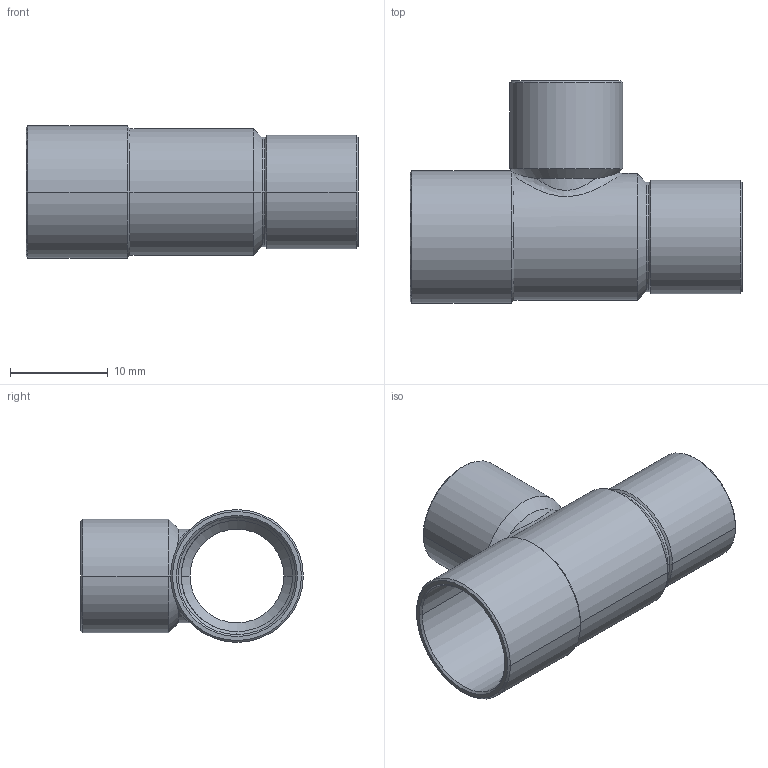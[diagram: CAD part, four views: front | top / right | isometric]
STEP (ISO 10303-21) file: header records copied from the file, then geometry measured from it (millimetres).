
FILE_DESCRIPTION((''),'2;1');
FILE_NAME('P:\Bouwmaten\z-maattekeningen 3D\5000\5130\5130121010.stp','2005-10-26T11:52:22',('Kris'),(''),'Autodesk Inventor 8','Autodesk Inventor 8','');
FILE_SCHEMA(('AUTOMOTIVE_DESIGN { 1 0 10303 214 1 1 1 1 }'));
Length unit declared in the file: millimetre
Products named in the file (1): 5130121010
Bounding box: 34 x 22.8 x 13.6 mm (x, y, z)
Volume: 1259.1 mm3; surface area: 3240.4 mm2
Topology: 1 solids, 1 shells, 57 faces, 136 edges, 80 vertices
Faces by surface type: cone 28, cylinder 24, plane 3, bspline 2
Entity records: 2127 total; most frequent: CARTESIAN_POINT 779, DIRECTION 290, ORIENTED_EDGE 272, EDGE_CURVE 136, AXIS2_PLACEMENT_3D 121, VERTEX_POINT 80, CIRCLE 65, EDGE_LOOP 60
